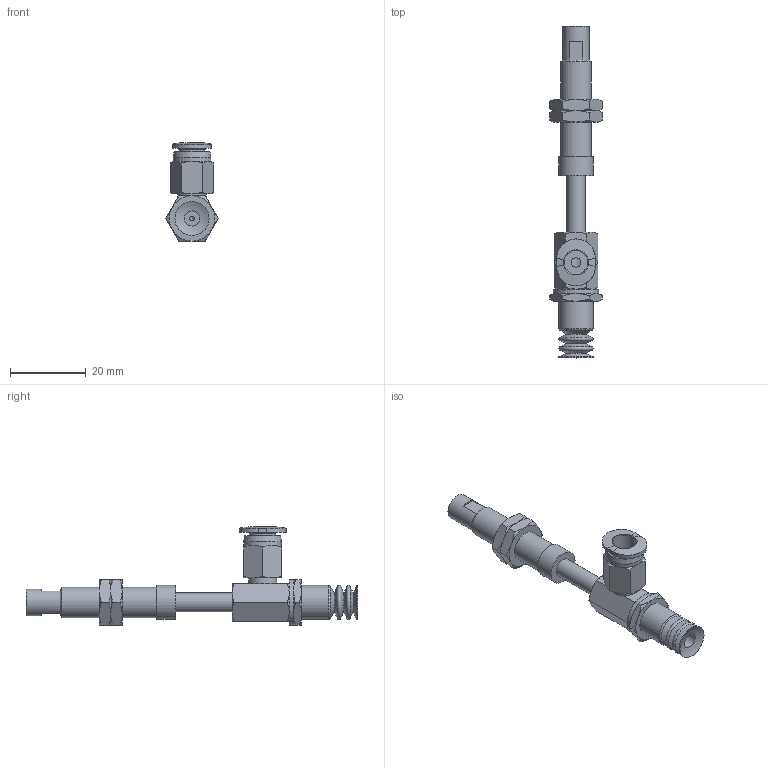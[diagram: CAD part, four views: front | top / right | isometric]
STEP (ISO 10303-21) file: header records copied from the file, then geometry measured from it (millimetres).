
FILE_DESCRIPTION(('STEP AP203'),'1');
FILE_NAME('-O.stp','2025-04-03T06:46:40',(' '),(' '),'Spatial InterOp 3D',' ',' ');
FILE_SCHEMA(('CONFIG_CONTROL_DESIGN'));
Length unit declared in the file: millimetre
Products named in the file (8): BNABPCYS-10-15-※-O; Adapter_napc-10-T; Connector_s-10-15; Nut napc_s-10-15; NAPCTS-10-15-FBODY; NAPCTS-10-15-MBODY; BPCG-10-※; PC-C_06-M5
Assembly tree (8 placements, depth 2):
  BNABPCYS-10-15-※-O
    Adapter_napc-10-T
    Connector_s-10-15
    Nut napc_s-10-15  x2
    NAPCTS-10-15-FBODY
    NAPCTS-10-15-MBODY
    BPCG-10-※
    PC-C_06-M5
Bounding box: 13.86 x 87.7 x 25.98 mm (x, y, z)
Volume: 4955.6 mm3; surface area: 6517.3 mm2
Topology: 7 solids, 10 shells, 210 faces, 431 edges, 255 vertices
Faces by surface type: cone 85, plane 76, cylinder 30, torus 10, bspline 4, revolution 3, sphere 2
Full cylindrical faces by diameter (mm): 1.25 x1, 4 x3, 4.134 x3, 5 x9, 7 x2, 7.188 x2, 7.4 x1, 8 x1, 8.2 x1, 9 x3, 10 x1, 12 x1
Entity records: 5536 total; most frequent: CARTESIAN_POINT 1616, DIRECTION 733, ORIENTED_EDGE 626, AXIS2_PLACEMENT_3D 333, EDGE_CURVE 315, EDGE_LOOP 276, VERTEX_POINT 222, FACE_OUTER_BOUND 166
